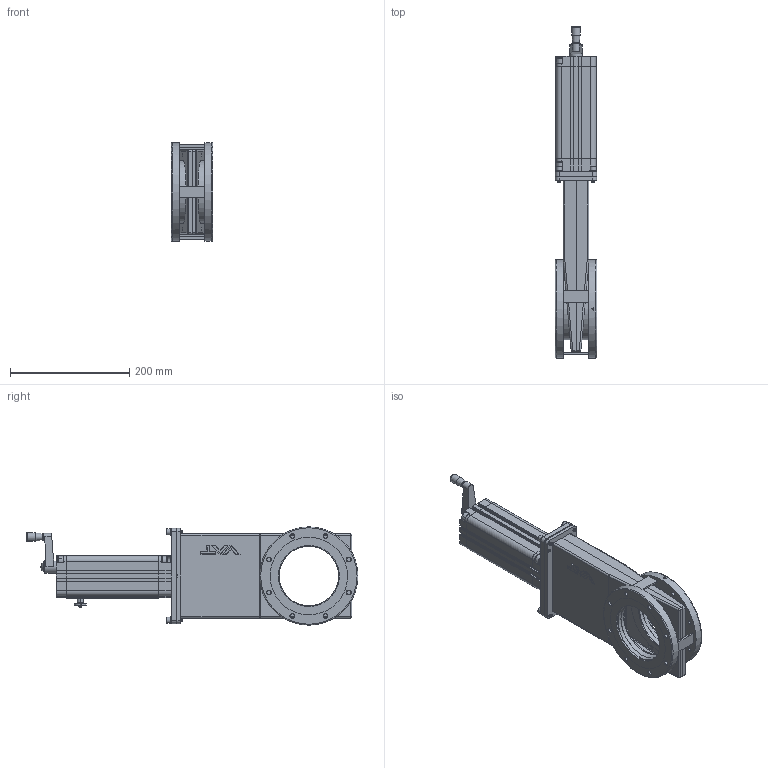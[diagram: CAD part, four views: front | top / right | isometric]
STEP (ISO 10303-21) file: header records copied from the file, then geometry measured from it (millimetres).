
FILE_DESCRIPTION(/* description */ (''),/* implementation_level */ '2;1');
FILE_NAME(/* name */ '1142073376_203.stp',/* time_stamp */ '2021-08-06T16:36:53+02:00',/* author */ (''),/* organization */ (''),/* preprocessor_version */ 'ST-DEVELOPER v16.7',/* originating_system */ 'SIEMENS PLM Software NX 1915',/* authorisation */ '');
FILE_SCHEMA (('AP203_CONFIGURATION_CONTROLLED_3D_DESIGN_OF_MECHANICAL_PARTS_AND_ASSEMBLIES_MIM_LF { 1 0 10303 403 2 1 2}'));
Length unit declared in the file: millimetre
Products named in the file (31): 251261.12_30073ID; 251260.4_30077ID; 251261.12_30074ID; 251257.9_29995ID; 251262.4; 251259.6_30068ID; 251259.6_30067ID; 251257.9_30063ID; N-6092-118.1; 251086.3; 301626.1; 342971.1; 343006.1; 441927; 218189; n-6195-408; n-6134-408; 260826.1; 260719.2; 260722.6; 260718.3; 250214.4; 259597.1; 259432.1; 332680.2; 301646.1; 251258.9; 251256.28; 251409.4; 343008.1; 374285.1
Assembly tree (44 placements, depth 4):
  374285.1
    301646.1
    332680.2
    259432.1
    259597.1  x4
    343008.1
      343006.1
      342971.1  x2
      301626.1
    251409.4
      251086.3
      N-6092-118.1  x2
    250214.4
    260718.3
    260722.6
    260719.2
    260826.1
    n-6134-408  x4
    n-6195-408
    218189  x4
    251256.28
      251257.9_30063ID
      251259.6_30067ID
      251259.6_30068ID
      251262.4  x3
      251258.9
        251261.12_30074ID
        251260.4_30077ID
        251261.12_30073ID
      251257.9_29995ID
    441927  x2
Bounding box: 70 x 557.1 x 164.8 mm (x, y, z)
Volume: 1188011 mm3; surface area: 513701 mm2
Topology: 48 solids, 48 shells, 1722 faces, 4453 edges, 2922 vertices
Faces by surface type: plane 1018, cylinder 402, cone 94, extrusion 92, revolution 66, bspline 20, torus 17, sphere 13
Full cylindrical faces by diameter (mm): 2.2 x1, 3.17 x1, 4 x2, 4.96 x4, 4.976 x2, 4.985 x1, 5 x12, 5.1 x2, 5.22 x4, 5.3 x1, 6 x8, 6.4 x4, 6.5 x10, 6.8 x16, 8 x1, 10 x4, 10.008 x1, 10.4 x4, 11 x6, 11.5 x4, 12 x3, 13 x1, 14 x4, 15 x1, 15.2 x1, 16 x1, 16.2 x1, 21 x1, 21.976 x1, 23 x1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
Entity records: 48455 total; most frequent: CARTESIAN_POINT 9828, ORIENTED_EDGE 7166, DIRECTION 6932, EDGE_CURVE 3583, VECTOR 2540, VERTEX_POINT 2466, LINE 2448, AXIS2_PLACEMENT_3D 2184
